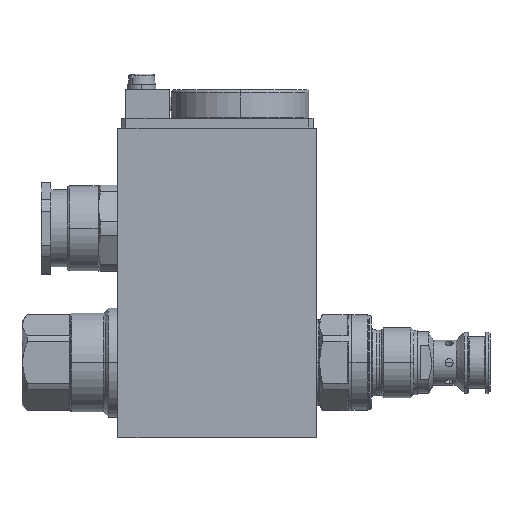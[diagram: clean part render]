
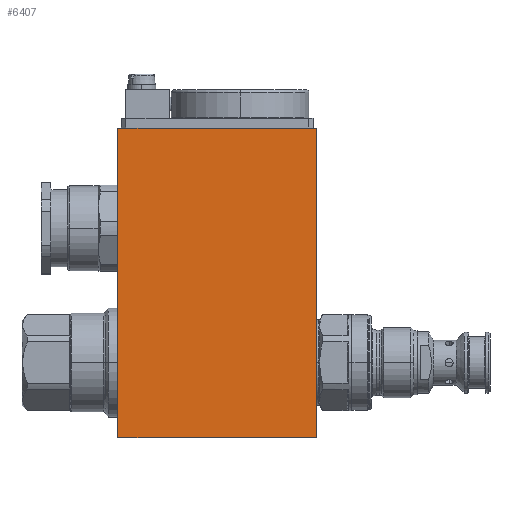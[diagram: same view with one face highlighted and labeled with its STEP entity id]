
A CAD part, top view. The second image highlights one B-rep face of the part: STEP entity #6407.
In plain terms, the highlighted planar face has unit normal (0, 0, 1).
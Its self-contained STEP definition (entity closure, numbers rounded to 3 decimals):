
#144 = VECTOR ( 'NONE', #14960, 1000. ) ;
#341 = ORIENTED_EDGE ( 'NONE', *, *, #1487, .F. ) ;
#1353 = VECTOR ( 'NONE', #18580, 1000. ) ;
#1355 = EDGE_LOOP ( 'NONE', ( #341, #7696, #17314, #2555 ) ) ;
#1460 = CARTESIAN_POINT ( 'NONE',  ( 90.407, 73.3, 23.5 ) ) ;
#1465 = VERTEX_POINT ( 'NONE', #10836 ) ;
#1487 = EDGE_CURVE ( 'NONE', #7722, #12562, #9197, .T. ) ;
#2555 = ORIENTED_EDGE ( 'NONE', *, *, #3366, .F. ) ;
#2910 = CARTESIAN_POINT ( 'NONE',  ( -17.2, 73.3, 23.5 ) ) ;
#3366 = EDGE_CURVE ( 'NONE', #12562, #6646, #5312, .T. ) ;
#3769 = DIRECTION ( 'NONE',  ( -1., 0., 0. ) ) ;
#4141 = LINE ( 'NONE', #1460, #17024 ) ;
#5100 = EDGE_CURVE ( 'NONE', #7722, #1465, #4141, .T. ) ;
#5312 = LINE ( 'NONE', #12388, #14677 ) ;
#5674 = CARTESIAN_POINT ( 'NONE',  ( -79.2, -23.5, 23.5 ) ) ;
#6407 = ADVANCED_FACE ( 'NONE', ( #8102 ), #16858, .T. ) ;
#6646 = VERTEX_POINT ( 'NONE', #9116 ) ;
#7269 = DIRECTION ( 'NONE',  ( -1., 0., 0. ) ) ;
#7696 = ORIENTED_EDGE ( 'NONE', *, *, #5100, .T. ) ;
#7722 = VERTEX_POINT ( 'NONE', #2910 ) ;
#8102 = FACE_OUTER_BOUND ( 'NONE', #1355, .T. ) ;
#9116 = CARTESIAN_POINT ( 'NONE',  ( -79.2, -23.5, 23.5 ) ) ;
#9197 = LINE ( 'NONE', #16609, #144 ) ;
#9913 = AXIS2_PLACEMENT_3D ( 'NONE', #12444, #11029, #16652 ) ;
#10836 = CARTESIAN_POINT ( 'NONE',  ( -79.2, 73.3, 23.5 ) ) ;
#11029 = DIRECTION ( 'NONE',  ( 0., 0., 1. ) ) ;
#12388 = CARTESIAN_POINT ( 'NONE',  ( 90.407, -23.5, 23.5 ) ) ;
#12444 = CARTESIAN_POINT ( 'NONE',  ( 90.407, -23.5, 23.5 ) ) ;
#12562 = VERTEX_POINT ( 'NONE', #14404 ) ;
#14404 = CARTESIAN_POINT ( 'NONE',  ( -17.2, -23.5, 23.5 ) ) ;
#14677 = VECTOR ( 'NONE', #3769, 1000. ) ;
#14960 = DIRECTION ( 'NONE',  ( 0., -1., 0. ) ) ;
#15315 = EDGE_CURVE ( 'NONE', #6646, #1465, #15907, .T. ) ;
#15907 = LINE ( 'NONE', #5674, #1353 ) ;
#16609 = CARTESIAN_POINT ( 'NONE',  ( -17.2, -23.5, 23.5 ) ) ;
#16652 = DIRECTION ( 'NONE',  ( 1., 0., 0. ) ) ;
#16858 = PLANE ( 'NONE',  #9913 ) ;
#17024 = VECTOR ( 'NONE', #7269, 1000. ) ;
#17314 = ORIENTED_EDGE ( 'NONE', *, *, #15315, .F. ) ;
#18580 = DIRECTION ( 'NONE',  ( 0., 1., 0. ) ) ;
